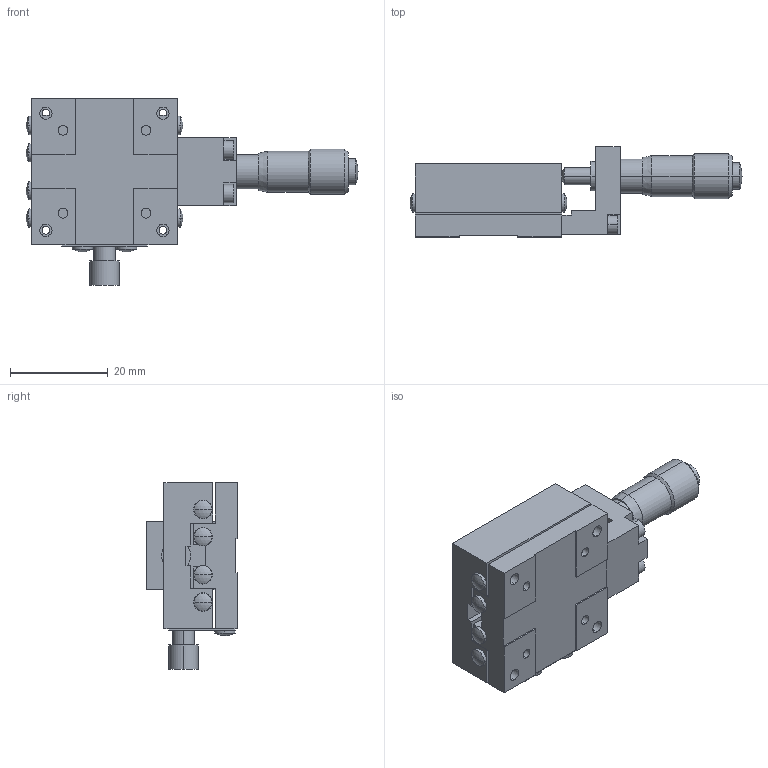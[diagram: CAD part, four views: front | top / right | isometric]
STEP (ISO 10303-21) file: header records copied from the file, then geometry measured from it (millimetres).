
FILE_DESCRIPTION (( 'STEP AP203' ), '1' );
FILE_NAME ('LS-3047-C1.STEP', '2011-08-08T05:46:39', ( '' ), ( '' ), 'SwSTEP 2.0', 'SolidWorks 2011', '' );
FILE_SCHEMA (( 'CONFIG_CONTROL_DESIGN' ));
Length unit declared in the file: millimetre
Products named in the file (3): LS-3047-C1; LS-3047-C1-2; LS-3047-C1-1
Assembly tree (2 placements, depth 2):
  LS-3047-C1
    LS-3047-C1-2
    LS-3047-C1-1
Bounding box: 68.09 x 18.5 x 38.3 mm (x, y, z)
Volume: 15334.2 mm3; surface area: 10017.2 mm2
Topology: 3 solids, 3 shells, 213 faces, 515 edges, 330 vertices
Faces by surface type: plane 92, cylinder 73, cone 26, sphere 20, bspline 2
Entity records: 6998 total; most frequent: CARTESIAN_POINT 1465, DIRECTION 1161, ORIENTED_EDGE 1030, EDGE_CURVE 515, AXIS2_PLACEMENT_3D 434, VERTEX_POINT 330, LINE 293, VECTOR 293
